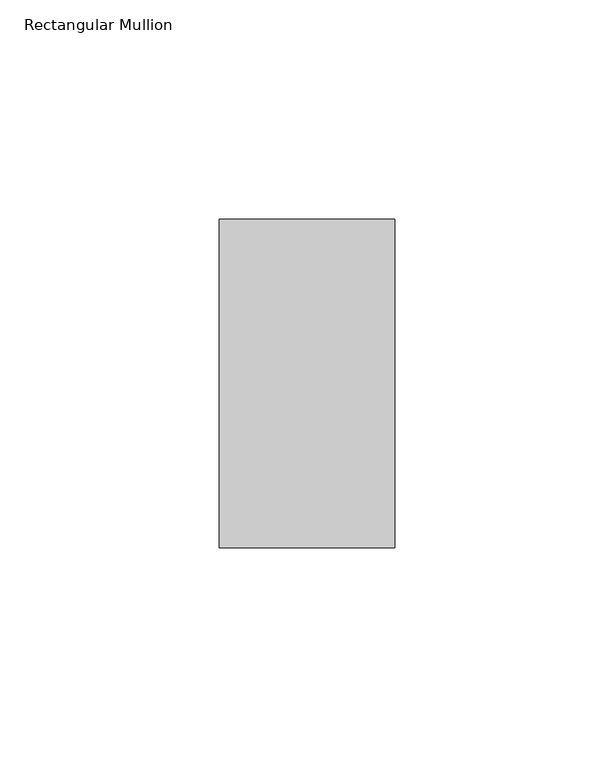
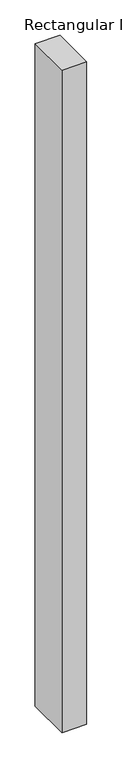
"""IFC4 building model written with IfcOpenShell, lengths in millimetres: member geometry, Rectangular Mullion : 22_IM_VNS_DET1_boven."""

from ifc_helpers import new_model, si_unit, frame, origin, place, context, project, spatial, polyline, outline, extrude, source, transform, mapped, element, save


def rectangular_mullion_43599745(model_context):
    return source(origin(), model_context, "Body", "SweptSolid", [
        extrude(outline(polyline([(0.0, 37.5), (0.0, -37.5), (-40.0, -37.5), (-40.0, 37.5), (0.0, 37.5)])), frame((0.0, 0.0, -1140.0), z_axis=(0.0, 0.0, 1.0), x_axis=(1.0, 0.0, 0.0)), (0.0, 0.0, 1.0), 1140.0),
    ])


if __name__ == "__main__":
    model = new_model("IFC4")
    model_context = context("Model", 3, world=origin())
    ifc_project = project(units=[si_unit("LENGTHUNIT", "METRE", prefix="MILLI")], contexts=[model_context])
    site = spatial("IfcSite", under=ifc_project)
    building = spatial("IfcBuilding", under=site)
    placement = place(None, origin())
    rectangular_mullion_shape = rectangular_mullion_43599745(model_context)
    element("IfcMember", 1, ObjectType="Rectangular Mullion : 22_IM_VNS_DET1_boven", at=placement, inside=building, context=model_context, shape_type="MappedRepresentation", body=[
        mapped(rectangular_mullion_shape, transform((0.0, 0.0, 0.0), x_axis=(1.0, 0.0, 0.0), y_axis=(0.0, 1.0, 0.0), z_axis=(0.0, 0.0, 1.0))),
    ])
    save(model, "model.ifc")
